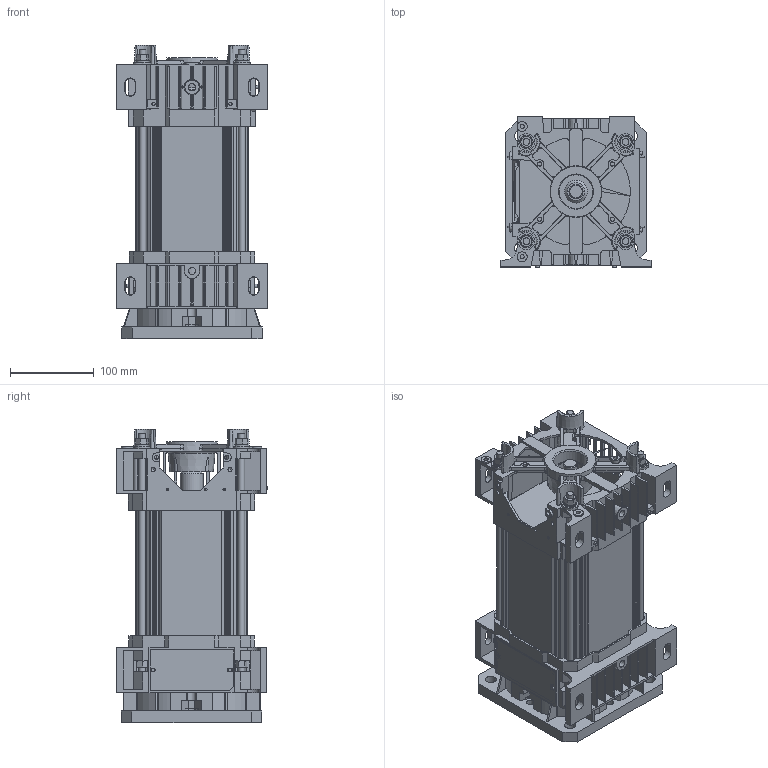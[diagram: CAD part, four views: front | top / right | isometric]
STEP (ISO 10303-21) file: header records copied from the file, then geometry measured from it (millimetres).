
FILE_DESCRIPTION(/* description */ ('Motore Tipo S34 Fl.155 F19-H160 NO Volano NO Piedi'),/* implementation_level */ '2;1');
FILE_NAME(/* name */ 'Y:\ServerTecnico\Mockup Motori x Sito Elmo\Mockup Tipo S34 Size 3 FL155 F19-H160 NO Volano.stp',/* time_stamp */ '2016-10-06T09:38:51+02:00',/* author */ ('aparmini'),/* organization */ (''),/* preprocessor_version */ 'ST-DEVELOPER v16.5',/* originating_system */ 'Autodesk Inventor 2017',/* authorisation */ '');
FILE_SCHEMA (('AUTOMOTIVE_DESIGN { 1 0 10303 214 3 1 1 }'));
Products named in the file (8): Mockup Motore Size 3 FL155 F19-H160 NO Volano; Mockup CP3XD040N; Mockup CA3ND155Q; Mockup Statore Size 3 - F19-H160; TGS10; TI08ML285; UNI 5587 - M8; DIN 125-2 - B 8,4
Assembly tree (20 placements, depth 2):
  Mockup Motore Size 3 FL155 F19-H160 NO Volano
    Mockup CP3XD040N
    Mockup CA3ND155Q
    Mockup Statore Size 3 - F19-H160
    TGS10
    UNI 5587 - M8  x8
    TI08ML285  x4
    DIN 125-2 - B 8,4  x4
Bounding box: 180 x 181 x 351 mm (x, y, z)
Volume: 3717494.6 mm3; surface area: 586059.7 mm2
Topology: 20 solids, 20 shells, 1909 faces, 5299 edges, 3428 vertices
Faces by surface type: plane 1048, cylinder 410, cone 340, bspline 86, torus 25
Full cylindrical faces by diameter (mm): 3.2 x3, 4 x8, 4.917 x4, 5 x2, 6.647 x8, 8 x4, 8.4 x4, 12 x2, 13 x4, 16 x4, 17 x1, 19 x1, 20 x4, 21 x1, 27.5 x1, 32 x1, 40 x2, 40.1 x1, 42.5 x1, 46 x1, 81 x1, 155 x1
Entity records: 58873 total; most frequent: CARTESIAN_POINT 13130, ORIENTED_EDGE 9592, DIRECTION 9568, EDGE_CURVE 4796, AXIS2_PLACEMENT_3D 3303, VERTEX_POINT 3187, LINE 2962, VECTOR 2962
